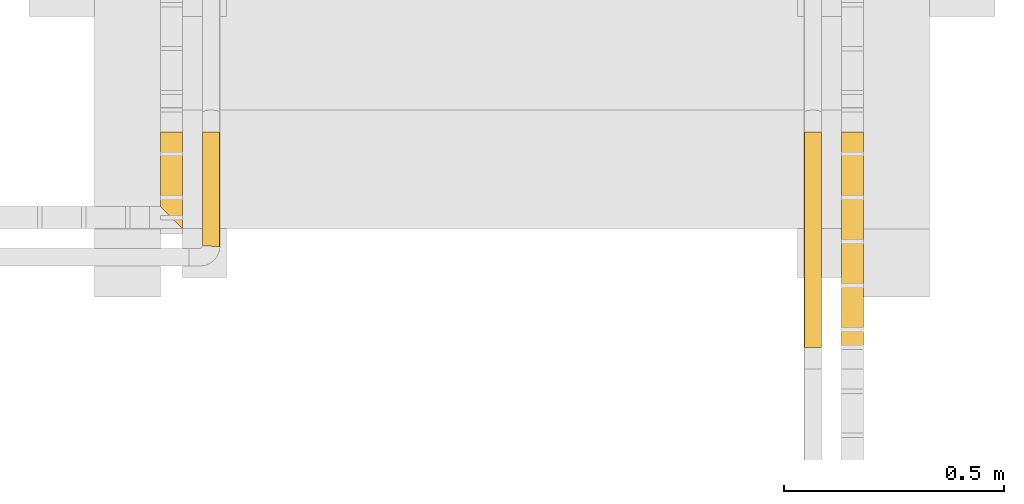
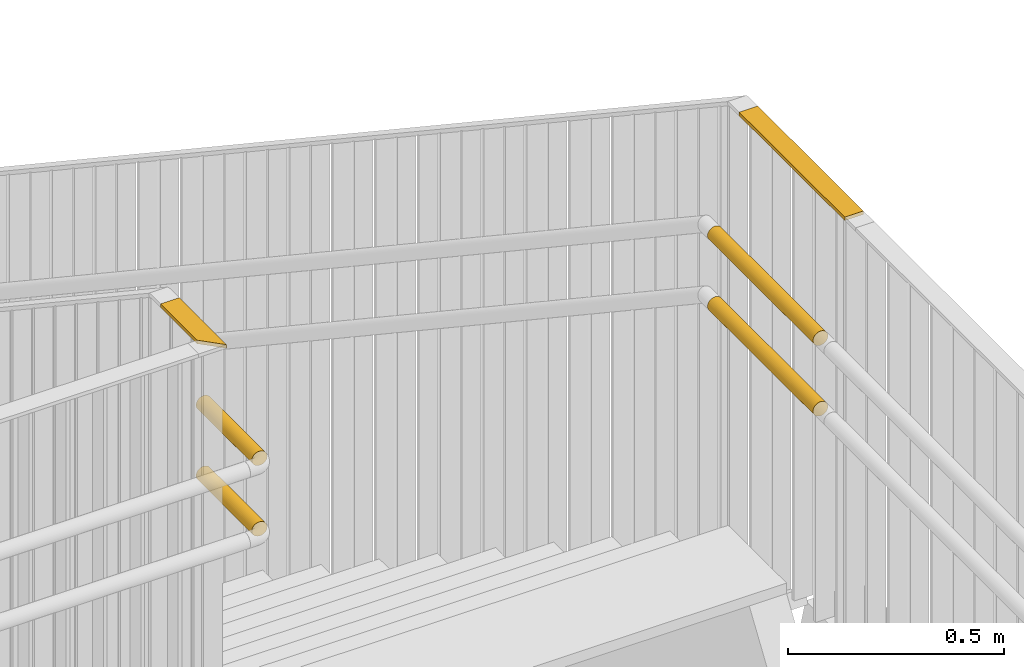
# One storey, part 172 of 418: 6 railings, 2 elements without a shape of their own.
"""IFC2X3 building model written with IfcOpenShell, lengths in millimetres."""

from ifc_helpers import new_model, entity, si_unit, converted_unit, derived_unit, money_unit, direction, frame, origin_with_axes, place, context, subcontext, project, spatial, faceted_brep, material, type_object, element, aggregate, save


model = new_model("IFC2X3")

# Units and contexts
model_context = context("Model", 3, precision=0.01, world=origin_with_axes(), true_north=direction((0.0, 1.0)))
body_context = subcontext(model_context, "Body", "Model", "MODEL_VIEW")
ifc_project = project(units=[si_unit("LENGTHUNIT", "METRE", prefix="MILLI"), si_unit("AREAUNIT", "SQUARE_METRE"), si_unit("VOLUMEUNIT", "CUBIC_METRE"), converted_unit("PLANEANGLEUNIT", "DEGREE", entity("IfcPlaneAngleMeasure", 0.0174532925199), si_unit("PLANEANGLEUNIT", "RADIAN"), dimensions=[0, 0, 0, 0, 0, 0, 0]), si_unit("SOLIDANGLEUNIT", "STERADIAN"), money_unit("EUR"), converted_unit("TIMEUNIT", "Year", entity("IfcTimeMeasure", 31556926.0), si_unit("TIMEUNIT", "SECOND"), dimensions=[0, 0, 1, 0, 0, 0, 0]), si_unit("MASSUNIT", "GRAM", prefix="KILO"), si_unit("THERMODYNAMICTEMPERATUREUNIT", "DEGREE_CELSIUS"), si_unit("LUMINOUSINTENSITYUNIT", "LUMEN"), si_unit("ENERGYUNIT", "JOULE", prefix="MEGA"), derived_unit("THERMALCONDUCTANCEUNIT", [(si_unit("POWERUNIT", "WATT"), 1), (si_unit("LENGTHUNIT", "METRE"), -1), (si_unit("THERMODYNAMICTEMPERATUREUNIT", "KELVIN"), -1)]), derived_unit("SPECIFICHEATCAPACITYUNIT", [(si_unit("ENERGYUNIT", "JOULE"), 1), (si_unit("MASSUNIT", "GRAM", prefix="KILO"), -1), (si_unit("THERMODYNAMICTEMPERATUREUNIT", "KELVIN"), -1)]), derived_unit("MASSDENSITYUNIT", [(si_unit("MASSUNIT", "GRAM", prefix="KILO"), 1), (si_unit("VOLUMEUNIT", "CUBIC_METRE"), -1)])], contexts=[model_context])

# Site, building, storey
site_placement = place(None, origin_with_axes())
site = spatial("IfcSite", under=ifc_project, at=site_placement, Name="Paldiski mnt 245/1, Tallinn, Harjumaa", CompositionType="COMPLEX")
building_placement = place(site_placement, origin_with_axes())
building = spatial("IfcBuilding", under=site, at=building_placement, Name="RKAS Hoone üldnimetus (kasutust iseloomustav) -> IFC Project Manager -> SOLIBRI", CompositionType="ELEMENT")
storey_placement = place(building_placement, origin_with_axes())
storey = spatial("IfcBuildingStorey", under=building, at=storey_placement, Name="Esimene korrus", CompositionType="ELEMENT", Elevation=0.0)

# Railings
railing_type_1 = type_object("IfcRailingType", Name="Railing Type", PredefinedType="NOTDEFINED")
railing_1_placement = place(storey_placement, frame((-15438.0000282, 781.88210964, -670.434782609), z_axis=(0.0, 0.0, 1.0), x_axis=(-0.773149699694, -0.634223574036, 0.0)))
railing_1 = element("IfcRailing", 1, at=railing_1_placement, inside=storey, type_object=railing_type_1, Name="Trepipiire", PredefinedType="NOTDEFINED")
ifc_material_1 = material(Name="RAL7016")
railing_type_2 = type_object("IfcRailingType", Name="IfcRailing", PredefinedType="GUARDRAIL")
railing_2_placement = place(railing_1_placement, frame((3195.20328948, 3855.69153187, 5123.50895857), z_axis=(0.0, 0.0, 1.0), x_axis=(-0.773149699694, 0.634223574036, 0.0)))
railing_2 = element("IfcRailing", 2, at=railing_2_placement, type_object=railing_type_2, material=ifc_material_1, PredefinedType="GUARDRAIL", context=body_context, shape_type="Brep", body=[
    faceted_brep([(25.0, 97.5, 16.9258240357), (25.0, 97.5, 26.9258240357), (25.0, -122.5, 26.9258240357), (25.0, -122.5, 16.9258240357), (-25.0, 97.5, 26.9258240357), (-25.0, 97.5, 16.9258240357), (-25.0, -72.5, 26.9258240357), (-25.0, -72.5, 16.9258240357)], [[[0, 1, 2, 3]], [[4, 1, 0, 5]], [[1, 4, 6, 2]], [[7, 3, 2, 6]], [[5, 0, 3, 7]], [[4, 5, 7, 6]]]),
])

railing_3_placement = place(storey_placement, frame((-13938.0000282, 1623.82640275, -670.434782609), z_axis=(0.0, 0.0, 1.0), x_axis=(0.773149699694, 0.634223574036, 0.0)))
railing_3 = element("IfcRailing", 3, at=railing_3_placement, inside=storey, type_object=railing_type_1, Name="Trepipiire", PredefinedType="NOTDEFINED")
railing_4_placement = place(railing_3_placement, frame((-3784.07470038, -4652.39126865, 5123.50895857), z_axis=(0.0, 0.0, 1.0), x_axis=(0.773149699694, -0.634223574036, 0.0)))
railing_4 = element("IfcRailing", 4, at=railing_4_placement, type_object=railing_type_2, material=ifc_material_1, PredefinedType="GUARDRAIL", context=body_context, shape_type="Brep", body=[
    faceted_brep([(25.0, 245.0, 16.9258240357), (25.0, 245.0, 26.9258240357), (25.0, -245.0, 26.9258240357), (25.0, -245.0, 16.9258240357), (-25.0, 245.0, 26.9258240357), (-25.0, 245.0, 16.9258240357), (-25.0, -245.0, 26.9258240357), (-25.0, -245.0, 16.9258240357)], [[[0, 1, 2, 3]], [[4, 1, 0, 5]], [[1, 4, 6, 2]], [[7, 3, 2, 6]], [[5, 0, 3, 7]], [[4, 5, 7, 6]]]),
])

# Railing
ifc_material_2 = material(Name="ET-07_Teras - Roostevaba")
railing_type_3 = type_object("IfcRailingType", Name="IfcRailing", PredefinedType="HANDRAIL")
railing_5_placement = place(railing_1_placement, frame((3146.23208266, 3937.89901877, 4605.71342306), z_axis=(0.0, 0.0, 1.0), x_axis=(-0.773149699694, 0.634223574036, 0.0)))
railing_5 = element("IfcRailing", 5, at=railing_5_placement, type_object=railing_type_3, material=ifc_material_2, Name="Piirde Käsipuu - 001", PredefinedType="HANDRAIL", context=body_context, shape_type="Brep", body=[
    faceted_brep([(19.6961550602, 130.0, 21.2483959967), (20.0, 130.0, 24.72135955), (20.0, -131.310869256, 24.72135955), (19.6961550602, -131.290954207, 21.2483959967), (19.6961550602, 130.0, 28.1943231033), (18.7938524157, 130.0, 17.8809566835), (17.3205080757, 130.0, 14.72135955), (15.3208888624, 130.0, 11.8656073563), (12.8557521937, 130.0, 9.40047068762), (10.0, 130.0, 7.40085147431), (6.84040286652, 130.0, 5.92750713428), (3.47296355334, 130.0, 5.02520448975), (0.0, 130.0, 4.72135955), (-3.47296355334, 130.0, 5.02520448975), (-6.84040286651, 130.0, 5.92750713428), (-10.0, 130.0, 7.40085147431), (-12.8557521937, 130.0, 9.40047068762), (-15.3208888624, 130.0, 11.8656073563), (-17.3205080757, 130.0, 14.72135955), (-18.7938524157, 130.0, 17.8809566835), (-19.6961550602, 130.0, 21.2483959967), (-20.0, 130.0, 24.72135955), (-19.6961550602, 130.0, 28.1943231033), (-18.7938524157, 130.0, 31.5617624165), (-17.3205080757, 130.0, 34.72135955), (-15.3208888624, 130.0, 37.5771117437), (-12.8557521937, 130.0, 40.0422484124), (-10.0, 130.0, 42.0418676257), (-6.84040286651, 130.0, 43.5152119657), (-3.47296355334, 130.0, 44.4175146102), (0.0, 130.0, 44.72135955), (3.47296355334, 130.0, 44.4175146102), (6.84040286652, 130.0, 43.5152119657), (10.0, 130.0, 42.0418676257), (12.8557521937, 130.0, 40.0422484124), (15.3208888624, 130.0, 37.5771117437), (17.3205080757, 130.0, 34.72135955), (18.7938524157, 130.0, 31.5617624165), (19.6961550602, -131.290954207, 28.1943231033), (17.3205080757, -131.135246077, 14.72135955), (18.7938524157, -131.231814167, 17.8809566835), (18.7938524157, -131.231814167, 31.5617624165), (17.3205080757, -131.135246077, 34.72135955), (15.3208888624, -131.004184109, 37.5771117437), (12.8557521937, -130.842610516, 40.0422484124), (10.0, -130.655434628, 42.0418676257), (6.84040286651, -130.448343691, 43.5152119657), (3.47296355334, -130.227630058, 44.4175146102), (0.0, -130.0, 44.72135955), (-3.47296355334, -129.772369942, 44.4175146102), (-6.84040286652, -129.551656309, 43.5152119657), (-10.0, -129.344565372, 42.0418676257), (-12.8557521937, -129.157389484, 40.0422484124), (-15.3208888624, -128.995815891, 37.5771117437), (-17.3205080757, -128.864753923, 34.72135955), (-18.7938524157, -128.768185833, 31.5617624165), (-19.6961550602, -128.709045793, 28.1943231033), (-20.0, -128.689130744, 24.72135955), (-19.6961550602, -128.709045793, 21.2483959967), (-18.7938524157, -128.768185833, 17.8809566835), (-17.3205080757, -128.864753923, 14.72135955), (-15.3208888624, -128.995815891, 11.8656073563), (-12.8557521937, -129.157389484, 9.40047068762), (-10.0, -129.344565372, 7.40085147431), (-6.84040286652, -129.551656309, 5.92750713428), (-3.47296355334, -129.772369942, 5.02520448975), (0.0, -130.0, 4.72135955), (3.47296355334, -130.227630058, 5.02520448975), (6.84040286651, -130.448343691, 5.92750713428), (10.0, -130.655434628, 7.40085147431), (12.8557521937, -130.842610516, 9.40047068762), (15.3208888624, -131.004184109, 11.8656073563)], [[[0, 1, 2, 3]], [[4, 1, 0, 5, 6, 7, 8, 9, 10, 11, 12, 13, 14, 15, 16, 17, 18, 19, 20, 21, 22, 23, 24, 25, 26, 27, 28, 29, 30, 31, 32, 33, 34, 35, 36, 37]], [[1, 4, 38, 2]], [[39, 40, 3, 2, 38, 41, 42, 43, 44, 45, 46, 47, 48, 49, 50, 51, 52, 53, 54, 55, 56, 57, 58, 59, 60, 61, 62, 63, 64, 65, 66, 67, 68, 69, 70, 71]], [[5, 0, 3, 40]], [[6, 5, 40, 39]], [[7, 6, 39, 71]], [[8, 7, 71, 70]], [[9, 8, 70, 69]], [[10, 9, 69, 68]], [[11, 10, 68, 67]], [[12, 11, 67, 66]], [[13, 12, 66, 65]], [[14, 13, 65, 64]], [[15, 14, 64, 63]], [[16, 15, 63, 62]], [[17, 16, 62, 61]], [[18, 17, 61, 60]], [[19, 18, 60, 59]], [[20, 19, 59, 58]], [[21, 20, 58, 57]], [[22, 21, 57, 56]], [[23, 22, 56, 55]], [[24, 23, 55, 54]], [[25, 24, 54, 53]], [[26, 25, 53, 52]], [[27, 26, 52, 51]], [[28, 27, 51, 50]], [[29, 28, 50, 49]], [[30, 29, 49, 48]], [[31, 30, 48, 47]], [[32, 31, 47, 46]], [[33, 32, 46, 45]], [[34, 33, 45, 44]], [[35, 34, 44, 43]], [[36, 35, 43, 42]], [[37, 36, 42, 41]], [[4, 37, 41, 38]]]),
])

railing_6_placement = place(railing_1_placement, frame((3146.23208266, 3937.89901877, 4805.71342306), z_axis=(0.0, 0.0, 1.0), x_axis=(-0.773149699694, 0.634223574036, 0.0)))
railing_6 = element("IfcRailing", 6, at=railing_6_placement, type_object=railing_type_3, material=ifc_material_2, Name="Piirde Käsipuu - 001", PredefinedType="HANDRAIL", context=body_context, shape_type="Brep", body=[
    faceted_brep([(19.6961550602, 130.0, 21.2483959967), (20.0, 130.0, 24.72135955), (20.0, -131.310869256, 24.72135955), (19.6961550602, -131.290954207, 21.2483959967), (19.6961550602, 130.0, 28.1943231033), (18.7938524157, 130.0, 17.8809566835), (17.3205080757, 130.0, 14.72135955), (15.3208888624, 130.0, 11.8656073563), (12.8557521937, 130.0, 9.40047068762), (10.0, 130.0, 7.40085147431), (6.84040286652, 130.0, 5.92750713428), (3.47296355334, 130.0, 5.02520448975), (0.0, 130.0, 4.72135955), (-3.47296355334, 130.0, 5.02520448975), (-6.84040286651, 130.0, 5.92750713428), (-10.0, 130.0, 7.40085147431), (-12.8557521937, 130.0, 9.40047068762), (-15.3208888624, 130.0, 11.8656073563), (-17.3205080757, 130.0, 14.72135955), (-18.7938524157, 130.0, 17.8809566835), (-19.6961550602, 130.0, 21.2483959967), (-20.0, 130.0, 24.72135955), (-19.6961550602, 130.0, 28.1943231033), (-18.7938524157, 130.0, 31.5617624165), (-17.3205080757, 130.0, 34.72135955), (-15.3208888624, 130.0, 37.5771117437), (-12.8557521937, 130.0, 40.0422484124), (-10.0, 130.0, 42.0418676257), (-6.84040286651, 130.0, 43.5152119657), (-3.47296355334, 130.0, 44.4175146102), (0.0, 130.0, 44.72135955), (3.47296355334, 130.0, 44.4175146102), (6.84040286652, 130.0, 43.5152119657), (10.0, 130.0, 42.0418676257), (12.8557521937, 130.0, 40.0422484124), (15.3208888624, 130.0, 37.5771117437), (17.3205080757, 130.0, 34.72135955), (18.7938524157, 130.0, 31.5617624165), (19.6961550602, -131.290954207, 28.1943231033), (17.3205080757, -131.135246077, 14.72135955), (18.7938524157, -131.231814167, 17.8809566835), (18.7938524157, -131.231814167, 31.5617624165), (17.3205080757, -131.135246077, 34.72135955), (15.3208888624, -131.004184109, 37.5771117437), (12.8557521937, -130.842610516, 40.0422484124), (10.0, -130.655434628, 42.0418676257), (6.84040286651, -130.448343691, 43.5152119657), (3.47296355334, -130.227630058, 44.4175146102), (0.0, -130.0, 44.72135955), (-3.47296355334, -129.772369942, 44.4175146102), (-6.84040286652, -129.551656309, 43.5152119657), (-10.0, -129.344565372, 42.0418676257), (-12.8557521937, -129.157389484, 40.0422484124), (-15.3208888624, -128.995815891, 37.5771117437), (-17.3205080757, -128.864753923, 34.72135955), (-18.7938524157, -128.768185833, 31.5617624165), (-19.6961550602, -128.709045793, 28.1943231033), (-20.0, -128.689130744, 24.72135955), (-19.6961550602, -128.709045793, 21.2483959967), (-18.7938524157, -128.768185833, 17.8809566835), (-17.3205080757, -128.864753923, 14.72135955), (-15.3208888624, -128.995815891, 11.8656073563), (-12.8557521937, -129.157389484, 9.40047068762), (-10.0, -129.344565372, 7.40085147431), (-6.84040286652, -129.551656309, 5.92750713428), (-3.47296355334, -129.772369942, 5.02520448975), (0.0, -130.0, 4.72135955), (3.47296355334, -130.227630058, 5.02520448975), (6.84040286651, -130.448343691, 5.92750713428), (10.0, -130.655434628, 7.40085147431), (12.8557521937, -130.842610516, 9.40047068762), (15.3208888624, -131.004184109, 11.8656073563)], [[[0, 1, 2, 3]], [[4, 1, 0, 5, 6, 7, 8, 9, 10, 11, 12, 13, 14, 15, 16, 17, 18, 19, 20, 21, 22, 23, 24, 25, 26, 27, 28, 29, 30, 31, 32, 33, 34, 35, 36, 37]], [[1, 4, 38, 2]], [[39, 40, 3, 2, 38, 41, 42, 43, 44, 45, 46, 47, 48, 49, 50, 51, 52, 53, 54, 55, 56, 57, 58, 59, 60, 61, 62, 63, 64, 65, 66, 67, 68, 69, 70, 71]], [[5, 0, 3, 40]], [[6, 5, 40, 39]], [[7, 6, 39, 71]], [[8, 7, 71, 70]], [[9, 8, 70, 69]], [[10, 9, 69, 68]], [[11, 10, 68, 67]], [[12, 11, 67, 66]], [[13, 12, 66, 65]], [[14, 13, 65, 64]], [[15, 14, 64, 63]], [[16, 15, 63, 62]], [[17, 16, 62, 61]], [[18, 17, 61, 60]], [[19, 18, 60, 59]], [[20, 19, 59, 58]], [[21, 20, 58, 57]], [[22, 21, 57, 56]], [[23, 22, 56, 55]], [[24, 23, 55, 54]], [[25, 24, 54, 53]], [[26, 25, 53, 52]], [[27, 26, 52, 51]], [[28, 27, 51, 50]], [[29, 28, 50, 49]], [[30, 29, 49, 48]], [[31, 30, 48, 47]], [[32, 31, 47, 46]], [[33, 32, 46, 45]], [[34, 33, 45, 44]], [[35, 34, 44, 43]], [[36, 35, 43, 42]], [[37, 36, 42, 41]], [[4, 37, 41, 38]]]),
])

aggregate(railing_1, [railing_5, railing_6, railing_2])

railing_7_placement = place(railing_3_placement, frame((-3853.65817336, -4595.31114699, 4605.71342306), z_axis=(0.0, 0.0, 1.0), x_axis=(0.773149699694, -0.634223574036, 0.0)))
railing_7 = element("IfcRailing", 7, at=railing_7_placement, type_object=railing_type_3, material=ifc_material_2, Name="Piirde Käsipuu - 001", PredefinedType="HANDRAIL", context=body_context, shape_type="Brep", body=[
    faceted_brep([(19.6961550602, 245.0, 21.2483959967), (20.0, 245.0, 24.72135955), (20.0, -245.0, 24.72135955), (19.6961550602, -245.0, 21.2483959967), (19.6961550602, 245.0, 28.1943231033), (18.7938524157, 245.0, 17.8809566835), (17.3205080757, 245.0, 14.72135955), (15.3208888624, 245.0, 11.8656073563), (12.8557521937, 245.0, 9.40047068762), (10.0, 245.0, 7.40085147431), (6.84040286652, 245.0, 5.92750713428), (3.47296355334, 245.0, 5.02520448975), (0.0, 245.0, 4.72135955), (-3.47296355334, 245.0, 5.02520448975), (-6.84040286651, 245.0, 5.92750713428), (-10.0, 245.0, 7.40085147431), (-12.8557521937, 245.0, 9.40047068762), (-15.3208888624, 245.0, 11.8656073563), (-17.3205080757, 245.0, 14.72135955), (-18.7938524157, 245.0, 17.8809566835), (-19.6961550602, 245.0, 21.2483959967), (-20.0, 245.0, 24.72135955), (-19.6961550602, 245.0, 28.1943231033), (-18.7938524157, 245.0, 31.5617624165), (-17.3205080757, 245.0, 34.72135955), (-15.3208888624, 245.0, 37.5771117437), (-12.8557521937, 245.0, 40.0422484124), (-10.0, 245.0, 42.0418676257), (-6.84040286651, 245.0, 43.5152119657), (-3.47296355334, 245.0, 44.4175146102), (0.0, 245.0, 44.72135955), (3.47296355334, 245.0, 44.4175146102), (6.84040286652, 245.0, 43.5152119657), (10.0, 245.0, 42.0418676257), (12.8557521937, 245.0, 40.0422484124), (15.3208888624, 245.0, 37.5771117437), (17.3205080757, 245.0, 34.72135955), (18.7938524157, 245.0, 31.5617624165), (19.6961550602, -245.0, 28.1943231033), (17.3205080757, -245.0, 14.72135955), (18.7938524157, -245.0, 17.8809566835), (18.7938524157, -245.0, 31.5617624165), (17.3205080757, -245.0, 34.72135955), (15.3208888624, -245.0, 37.5771117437), (12.8557521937, -245.0, 40.0422484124), (9.99999999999, -245.0, 42.0418676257), (6.84040286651, -245.0, 43.5152119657), (3.47296355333, -245.0, 44.4175146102), (0.0, -245.0, 44.72135955), (-3.47296355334, -245.0, 44.4175146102), (-6.84040286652, -245.0, 43.5152119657), (-10.0, -245.0, 42.0418676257), (-12.8557521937, -245.0, 40.0422484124), (-15.3208888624, -245.0, 37.5771117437), (-17.3205080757, -245.0, 34.72135955), (-18.7938524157, -245.0, 31.5617624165), (-19.6961550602, -245.0, 28.1943231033), (-20.0, -245.0, 24.72135955), (-19.6961550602, -245.0, 21.2483959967), (-18.7938524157, -245.0, 17.8809566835), (-17.3205080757, -245.0, 14.72135955), (-15.3208888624, -245.0, 11.8656073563), (-12.8557521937, -245.0, 9.40047068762), (-10.0, -245.0, 7.40085147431), (-6.84040286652, -245.0, 5.92750713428), (-3.47296355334, -245.0, 5.02520448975), (0.0, -245.0, 4.72135955), (3.47296355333, -245.0, 5.02520448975), (6.84040286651, -245.0, 5.92750713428), (9.99999999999, -245.0, 7.40085147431), (12.8557521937, -245.0, 9.40047068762), (15.3208888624, -245.0, 11.8656073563)], [[[0, 1, 2, 3]], [[4, 1, 0, 5, 6, 7, 8, 9, 10, 11, 12, 13, 14, 15, 16, 17, 18, 19, 20, 21, 22, 23, 24, 25, 26, 27, 28, 29, 30, 31, 32, 33, 34, 35, 36, 37]], [[1, 4, 38, 2]], [[39, 40, 3, 2, 38, 41, 42, 43, 44, 45, 46, 47, 48, 49, 50, 51, 52, 53, 54, 55, 56, 57, 58, 59, 60, 61, 62, 63, 64, 65, 66, 67, 68, 69, 70, 71]], [[5, 0, 3, 40]], [[6, 5, 40, 39]], [[7, 6, 39, 71]], [[8, 7, 71, 70]], [[9, 8, 70, 69]], [[10, 9, 69, 68]], [[11, 10, 68, 67]], [[12, 11, 67, 66]], [[13, 12, 66, 65]], [[14, 13, 65, 64]], [[15, 14, 64, 63]], [[16, 15, 63, 62]], [[17, 16, 62, 61]], [[18, 17, 61, 60]], [[19, 18, 60, 59]], [[20, 19, 59, 58]], [[21, 20, 58, 57]], [[22, 21, 57, 56]], [[23, 22, 56, 55]], [[24, 23, 55, 54]], [[25, 24, 54, 53]], [[26, 25, 53, 52]], [[27, 26, 52, 51]], [[28, 27, 51, 50]], [[29, 28, 50, 49]], [[30, 29, 49, 48]], [[31, 30, 48, 47]], [[32, 31, 47, 46]], [[33, 32, 46, 45]], [[34, 33, 45, 44]], [[35, 34, 44, 43]], [[36, 35, 43, 42]], [[37, 36, 42, 41]], [[4, 37, 41, 38]]]),
])

railing_8_placement = place(railing_3_placement, frame((-3853.65817336, -4595.31114699, 4805.71342306), z_axis=(0.0, 0.0, 1.0), x_axis=(0.773149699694, -0.634223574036, 0.0)))
railing_8 = element("IfcRailing", 8, at=railing_8_placement, type_object=railing_type_3, material=ifc_material_2, Name="Piirde Käsipuu - 001", PredefinedType="HANDRAIL", context=body_context, shape_type="Brep", body=[
    faceted_brep([(19.6961550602, 245.0, 21.2483959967), (20.0, 245.0, 24.72135955), (20.0, -245.0, 24.72135955), (19.6961550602, -245.0, 21.2483959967), (19.6961550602, 245.0, 28.1943231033), (18.7938524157, 245.0, 17.8809566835), (17.3205080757, 245.0, 14.72135955), (15.3208888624, 245.0, 11.8656073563), (12.8557521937, 245.0, 9.40047068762), (10.0, 245.0, 7.40085147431), (6.84040286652, 245.0, 5.92750713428), (3.47296355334, 245.0, 5.02520448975), (0.0, 245.0, 4.72135955), (-3.47296355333, 245.0, 5.02520448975), (-6.84040286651, 245.0, 5.92750713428), (-9.99999999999, 245.0, 7.40085147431), (-12.8557521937, 245.0, 9.40047068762), (-15.3208888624, 245.0, 11.8656073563), (-17.3205080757, 245.0, 14.72135955), (-18.7938524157, 245.0, 17.8809566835), (-19.6961550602, 245.0, 21.2483959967), (-20.0, 245.0, 24.72135955), (-19.6961550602, 245.0, 28.1943231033), (-18.7938524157, 245.0, 31.5617624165), (-17.3205080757, 245.0, 34.72135955), (-15.3208888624, 245.0, 37.5771117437), (-12.8557521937, 245.0, 40.0422484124), (-9.99999999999, 245.0, 42.0418676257), (-6.84040286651, 245.0, 43.5152119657), (-3.47296355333, 245.0, 44.4175146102), (0.0, 245.0, 44.72135955), (3.47296355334, 245.0, 44.4175146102), (6.84040286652, 245.0, 43.5152119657), (10.0, 245.0, 42.0418676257), (12.8557521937, 245.0, 40.0422484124), (15.3208888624, 245.0, 37.5771117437), (17.3205080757, 245.0, 34.72135955), (18.7938524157, 245.0, 31.5617624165), (19.6961550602, -245.0, 28.1943231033), (17.3205080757, -245.0, 14.72135955), (18.7938524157, -245.0, 17.8809566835), (18.7938524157, -245.0, 31.5617624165), (17.3205080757, -245.0, 34.72135955), (15.3208888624, -245.0, 37.5771117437), (12.8557521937, -245.0, 40.0422484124), (10.0, -245.0, 42.0418676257), (6.84040286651, -245.0, 43.5152119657), (3.47296355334, -245.0, 44.4175146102), (0.0, -245.0, 44.72135955), (-3.47296355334, -245.0, 44.4175146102), (-6.84040286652, -245.0, 43.5152119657), (-10.0, -245.0, 42.0418676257), (-12.8557521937, -245.0, 40.0422484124), (-15.3208888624, -245.0, 37.5771117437), (-17.3205080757, -245.0, 34.72135955), (-18.7938524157, -245.0, 31.5617624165), (-19.6961550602, -245.0, 28.1943231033), (-20.0, -245.0, 24.72135955), (-19.6961550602, -245.0, 21.2483959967), (-18.7938524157, -245.0, 17.8809566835), (-17.3205080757, -245.0, 14.72135955), (-15.3208888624, -245.0, 11.8656073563), (-12.8557521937, -245.0, 9.40047068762), (-10.0, -245.0, 7.40085147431), (-6.84040286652, -245.0, 5.92750713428), (-3.47296355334, -245.0, 5.02520448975), (0.0, -245.0, 4.72135955), (3.47296355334, -245.0, 5.02520448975), (6.84040286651, -245.0, 5.92750713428), (10.0, -245.0, 7.40085147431), (12.8557521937, -245.0, 9.40047068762), (15.3208888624, -245.0, 11.8656073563)], [[[0, 1, 2, 3]], [[4, 1, 0, 5, 6, 7, 8, 9, 10, 11, 12, 13, 14, 15, 16, 17, 18, 19, 20, 21, 22, 23, 24, 25, 26, 27, 28, 29, 30, 31, 32, 33, 34, 35, 36, 37]], [[1, 4, 38, 2]], [[39, 40, 3, 2, 38, 41, 42, 43, 44, 45, 46, 47, 48, 49, 50, 51, 52, 53, 54, 55, 56, 57, 58, 59, 60, 61, 62, 63, 64, 65, 66, 67, 68, 69, 70, 71]], [[5, 0, 3, 40]], [[6, 5, 40, 39]], [[7, 6, 39, 71]], [[8, 7, 71, 70]], [[9, 8, 70, 69]], [[10, 9, 69, 68]], [[11, 10, 68, 67]], [[12, 11, 67, 66]], [[13, 12, 66, 65]], [[14, 13, 65, 64]], [[15, 14, 64, 63]], [[16, 15, 63, 62]], [[17, 16, 62, 61]], [[18, 17, 61, 60]], [[19, 18, 60, 59]], [[20, 19, 59, 58]], [[21, 20, 58, 57]], [[22, 21, 57, 56]], [[23, 22, 56, 55]], [[24, 23, 55, 54]], [[25, 24, 54, 53]], [[26, 25, 53, 52]], [[27, 26, 52, 51]], [[28, 27, 51, 50]], [[29, 28, 50, 49]], [[30, 29, 49, 48]], [[31, 30, 48, 47]], [[32, 31, 47, 46]], [[33, 32, 46, 45]], [[34, 33, 45, 44]], [[35, 34, 44, 43]], [[36, 35, 43, 42]], [[37, 36, 42, 41]], [[4, 37, 41, 38]]]),
])

aggregate(railing_3, [railing_7, railing_8, railing_4])

save(model, "model.ifc")
